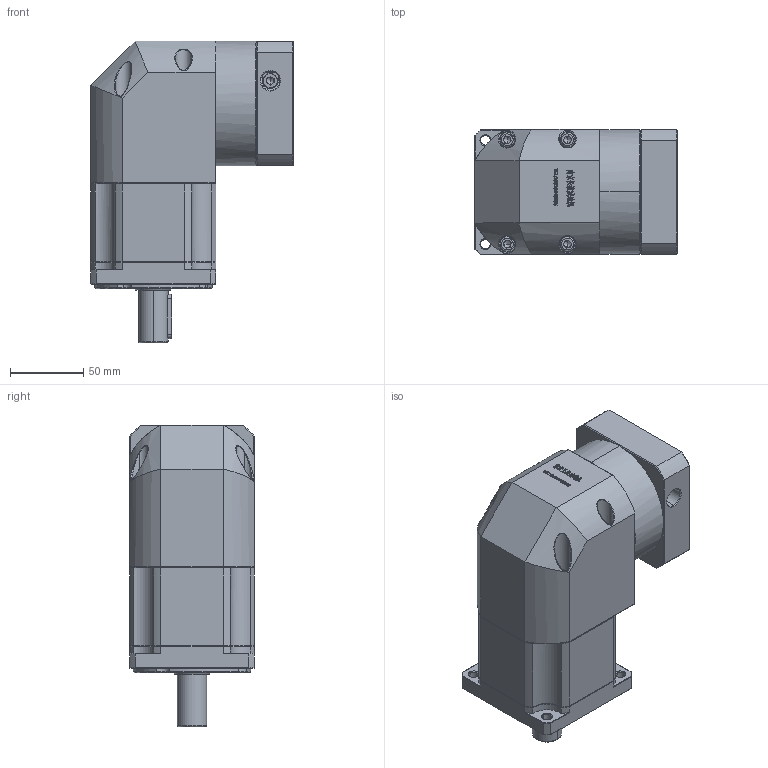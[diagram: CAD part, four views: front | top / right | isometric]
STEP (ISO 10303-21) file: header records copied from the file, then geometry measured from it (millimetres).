
FILE_DESCRIPTION (( 'STEP AP214' ), '1' );
FILE_NAME ('ZBR90-D20-L2-19-70-90-M5.STEP', '2022-05-07T14:56:09', ( '' ), ( 'Microsoft' ), 'SwSTEP 2.0', 'SolidWorks 2016', '' );
FILE_SCHEMA (( 'AUTOMOTIVE_DESIGN' ));
Length unit declared in the file: millimetre
Products named in the file (1): ZBR90-D20-L2-19-70-90-M5
Bounding box: 137.6 x 85 x 205.5 mm (x, y, z)
Volume: 1308274.2 mm3; surface area: 135238 mm2
Topology: 5 solids, 5 shells, 3004 faces, 7953 edges, 5083 vertices
Faces by surface type: plane 1577, bspline 603, cylinder 447, cone 351, torus 26
Entity records: 163240 total; most frequent: CARTESIAN_POINT 60639, ORIENTED_EDGE 15830, DIRECTION 12065, EDGE_CURVE 7915, VECTOR 5281, LINE 5281, VERTEX_POINT 5083, AXIS2_PLACEMENT_3D 3392
